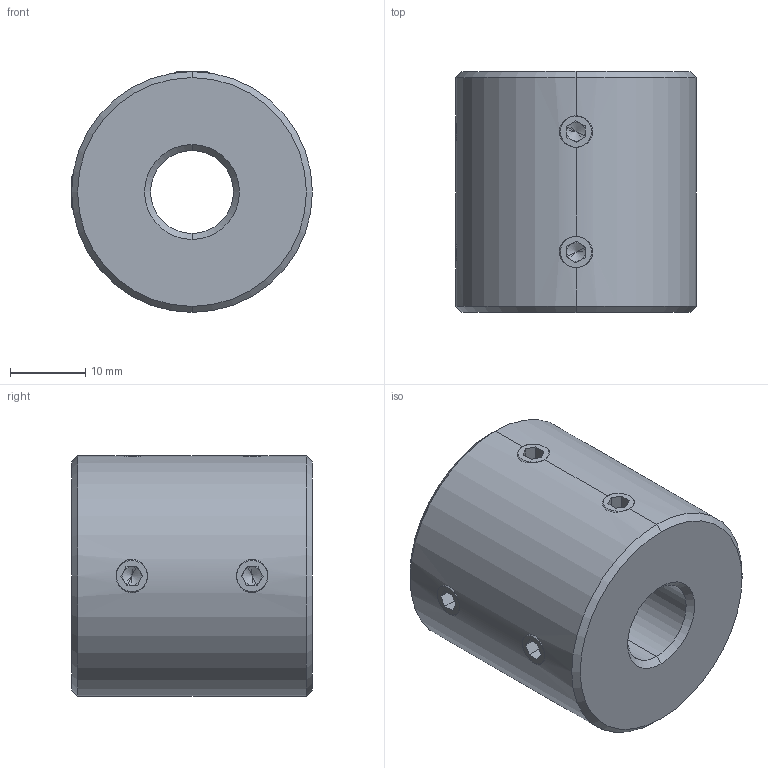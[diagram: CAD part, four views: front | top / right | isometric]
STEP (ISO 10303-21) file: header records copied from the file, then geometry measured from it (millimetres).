
FILE_DESCRIPTION (( 'STEP AP214' ), '1' );
FILE_NAME ('LL-D-D32L32-11-11½¨Ä£.STEP', '2022-07-22T11:29:58', ( '' ), ( '' ), 'SwSTEP 2.0', 'SolidWorks 2022', '' );
FILE_SCHEMA (( 'AUTOMOTIVE_DESIGN' ));
Length unit declared in the file: millimetre
Products named in the file (1): LL-D-D32L32-11-11膘耀
Bounding box: 32 x 32 x 32 mm (x, y, z)
Volume: 22415.1 mm3; surface area: 5856.3 mm2
Topology: 1 solids, 1 shells, 110 faces, 280 edges, 172 vertices
Faces by surface type: plane 58, cone 32, cylinder 20
Entity records: 3678 total; most frequent: CARTESIAN_POINT 1035, ORIENTED_EDGE 544, DIRECTION 542, EDGE_CURVE 272, AXIS2_PLACEMENT_3D 199, VERTEX_POINT 172, VECTOR 144, LINE 144
